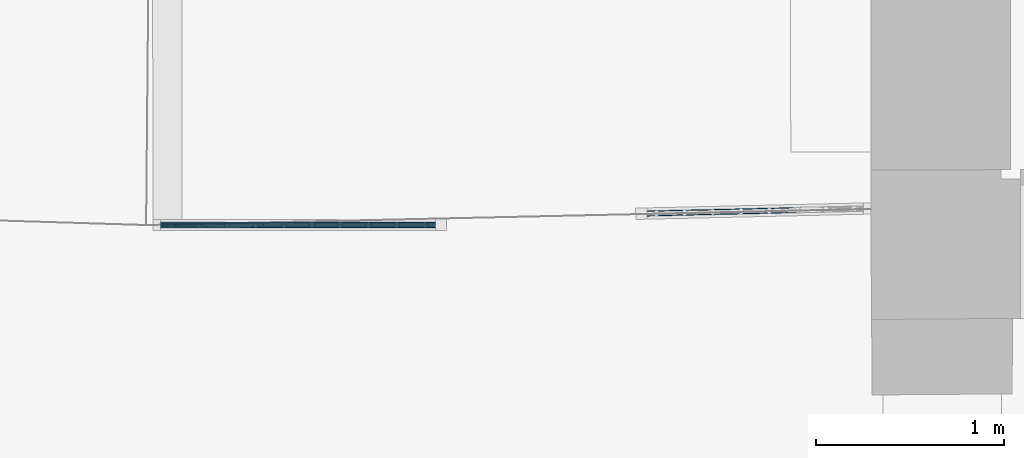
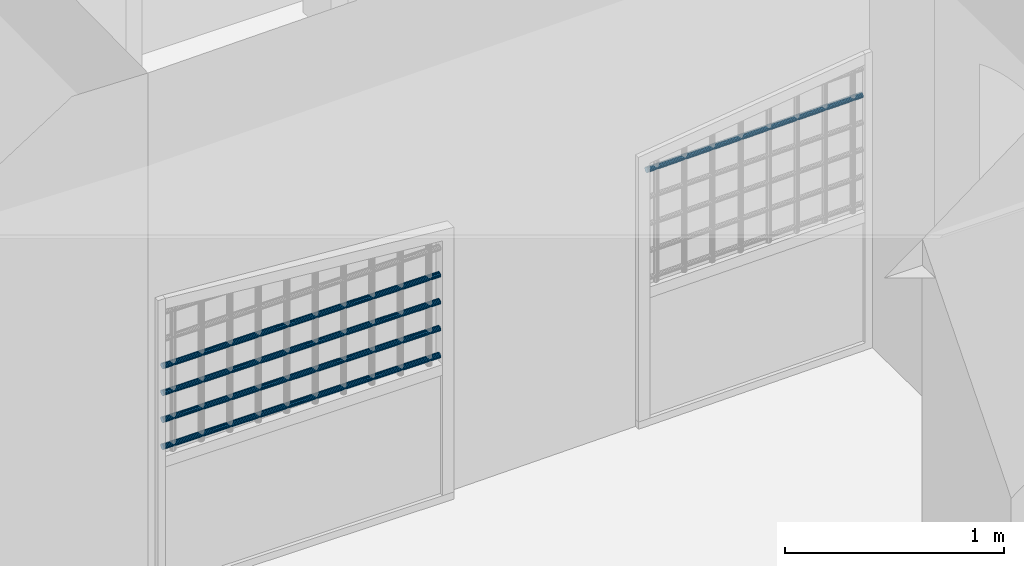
# One storey, part 33 of 133: 5 members, 2 elements without a shape of their own.
"""IFC2X3 building model written with IfcOpenShell, lengths in centimetres."""

from ifc_helpers import new_model, entity, si_unit, converted_unit, direction, frame, origin, origin_with_axes, place, context, subcontext, project, spatial, faceted_brep, material, type_object, element, aggregate, save


model = new_model("IFC2X3")

# Units and contexts
model_context = context("Model", 3, precision=0.0001, world=origin(), true_north=direction((0.225632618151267, 0.974212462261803, 0.0)))
body_context = subcontext(model_context, "Body", "Model", "MODEL_VIEW")
ifc_project = project(units=[si_unit("LENGTHUNIT", "METRE", prefix="CENTI"), si_unit("AREAUNIT", "SQUARE_METRE", prefix="CENTI"), si_unit("VOLUMEUNIT", "CUBIC_METRE", prefix="CENTI"), converted_unit("PLANEANGLEUNIT", "DEGREE", entity("IfcRatioMeasure", 0.0174532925), si_unit("PLANEANGLEUNIT", "RADIAN"), dimensions=[0, 0, 0, 0, 0, 0, 0])], contexts=[model_context])

# Site, building, storey
site_placement = place(None, origin_with_axes())
site = spatial("IfcSite", under=ifc_project, at=site_placement, Name="Default Site", CompositionType="ELEMENT")
building_placement = place(site_placement, origin_with_axes())
building = spatial("IfcBuilding", under=site, at=building_placement, Name="Default Building", CompositionType="ELEMENT")
storey_placement = place(building_placement, frame((0.0, 0.0, -291.400371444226), z_axis=(0.0, 0.0, 1.0), x_axis=(1.0, 0.0, 0.0)))
storey = spatial("IfcBuildingStorey", under=building, at=storey_placement, Name="Rez-de-Jardin", CompositionType="ELEMENT", Elevation=-291.400371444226)

# Assembly, member
building_element_proxy_type = type_object("IfcBuildingElementProxyType", Name="Type Object", PredefinedType="NOTDEFINED")
assembly_1_placement = place(storey_placement, frame((230.29031879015, 209.448968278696, 0.0), z_axis=(0.0, 0.0, 1.0), x_axis=(-0.999739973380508, -0.0228031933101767, 0.0)))
assembly_1 = element("IfcElementAssembly", 1, at=assembly_1_placement, inside=storey, type_object=building_element_proxy_type, Name="Panneau 76236", ObjectType="Precast panel", PredefinedType="USERDEFINED")
ifc_material = material(Name="Noyer 01")
member_1_placement = place(assembly_1_placement, frame((119.000005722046, -2.48696978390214, 139.087891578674), z_axis=(1.0, -6.99787450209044e-15, -4.04190569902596e-15), x_axis=(-8.08381139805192e-15, -0.866025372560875, -0.500000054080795)))
member_1 = element("IfcMember", 2, at=member_1_placement, material=ifc_material, Name="4294966847", context=body_context, shape_type="Brep", body=[
    faceted_brep([(-6.66133814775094e-14, -2.22044604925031e-14, 2.22044604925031e-14), (-0.520944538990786, -2.22044604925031e-14, 1.79950504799e-14), (-1.01047143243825, -0.178172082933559, 1.40391967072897e-14), (-1.40954075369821, -0.513033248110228, 1.08139992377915e-14), (-1.67001307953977, -0.964184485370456, 8.7085111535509e-15), (-1.76047079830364, -1.47720890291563, 7.97669189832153e-15), (-1.67001492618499, -1.99024800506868, 8.70671629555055e-15), (-1.40954271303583, -2.44139924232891, 1.08106382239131e-14), (-1.01047353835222, -2.77625157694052, 1.40346727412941e-14), (-0.520948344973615, -2.95442951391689, 1.79898946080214e-14), (-3.80598290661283e-06, -2.95442951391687, 2.21993046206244e-14), (0.489529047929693, -2.7762471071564, 2.61552065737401e-14), (0.888592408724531, -2.44139626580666, 2.9380355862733e-14), (1.14906473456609, -1.99024502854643, 3.14858439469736e-14), (1.23952841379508, -1.47721028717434, 3.22177113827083e-14), (1.1490665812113, -0.964181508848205, 3.14876388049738e-14), (0.888594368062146, -0.513030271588, 2.93837168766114e-14), (0.489525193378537, -0.178177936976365, 2.61596823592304e-14), (0.48952519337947, -0.178177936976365, -115.000005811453), (0.888594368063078, -0.513030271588, -115.000005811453), (1.14906658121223, -0.964181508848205, -115.000005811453), (1.23952841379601, -1.47721028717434, -115.000005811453), (1.14906473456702, -1.99024502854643, -115.000005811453), (0.888592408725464, -2.44139626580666, -115.000005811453), (0.489529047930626, -2.7762471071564, -115.000005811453), (-3.80598197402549e-06, -2.95442951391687, -115.000005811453), (-0.520948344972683, -2.95442951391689, -115.000005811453), (-1.01047353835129, -2.77625157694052, -115.000005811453), (-1.40954271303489, -2.44139924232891, -115.000005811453), (-1.67001492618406, -1.99024800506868, -115.000005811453), (-1.7604707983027, -1.47720890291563, -115.000005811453), (-1.67001307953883, -0.964184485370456, -115.000005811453), (-1.40954075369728, -0.513033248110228, -115.000005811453), (-1.01047143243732, -0.178172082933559, -115.000005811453), (-0.520944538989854, -2.22044604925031e-14, -115.000005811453), (8.65973959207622e-13, -2.22044604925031e-14, -115.000005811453), (0.489525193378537, -0.178177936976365, 2.22044604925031e-14), (0.888591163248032, -0.513034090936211, 2.22044345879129e-14), (0.888591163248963, -0.513034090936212, -115.000005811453), (0.489525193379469, -0.178177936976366, -115.000005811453), (0.888594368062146, -0.513030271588, 2.22044604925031e-14), (1.14906660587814, -0.964181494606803, 2.22044606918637e-14), (1.14906660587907, -0.964181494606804, -115.000005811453), (0.888594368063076, -0.513030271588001, -115.000005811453), (1.1490665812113, -0.964181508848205, 2.22044604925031e-14), (1.23952740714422, -1.477210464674, 2.22044523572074e-14), (1.23952740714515, -1.477210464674, -115.000005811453), (1.14906658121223, -0.964181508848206, -115.000005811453), (1.23952841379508, -1.47721028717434, 2.22044604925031e-14), (1.14906646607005, -1.99024533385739, 1.3992341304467e-20), (1.14906646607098, -1.99024533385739, -115.000005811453), (1.14906473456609, -1.99024502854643, 0.0), (0.88859240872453, -2.44139626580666, -9.71150174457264e-30), (0.88859240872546, -2.44139626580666, -115.000005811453), (0.888592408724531, -2.44139626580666, 0.0), (0.489530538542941, -2.77624888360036, 1.20434926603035e-20), (0.489530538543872, -2.77624888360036, -115.000005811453), (0.888592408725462, -2.44139626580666, -115.000005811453), (0.489529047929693, -2.7762471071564, 0.0), (-6.07714851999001e-06, -2.95442327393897, -1.83448670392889e-20), (-6.07714758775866e-06, -2.95442327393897, -115.000005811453), (0.489529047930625, -2.7762471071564, -115.000005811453), (-3.80598290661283e-06, -2.95442951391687, 0.0), (-0.520948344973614, -2.95442948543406, 4.14624859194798e-26), (-0.520948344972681, -2.95442948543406, -115.000005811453), (-0.520948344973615, -2.95442951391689, 0.0), (-1.01047524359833, -2.77625626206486, -1.37874062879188e-20), (-1.01047524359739, -2.77625626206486, -115.000005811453), (-1.01047353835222, -2.77625157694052, 0.0), (-1.4095395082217, -2.44139542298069, 2.5904590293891e-20), (-1.40953950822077, -2.44139542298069, -115.000005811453), (-1.01047353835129, -2.77625157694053, -115.000005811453), (-1.40954271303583, -2.44139924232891, 0.0), (-1.67001495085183, -1.99024801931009, -1.99360594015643e-22), (-1.6700149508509, -1.99024801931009, -115.000005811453), (-1.4095427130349, -2.44139924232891, -115.000005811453), (-1.67001492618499, -1.99024800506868, 0.0), (-1.76047733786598, -1.47721005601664, -5.28497774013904e-20), (-1.76047733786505, -1.47721005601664, -115.000005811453), (-1.67001492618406, -1.99024800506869, -115.000005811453), (-1.76047079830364, -1.47720890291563, 0.0), (-1.67001079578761, -0.964184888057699, 1.84550773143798e-20), (-1.67001079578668, -0.964184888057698, -115.000005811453), (-1.76047079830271, -1.47720890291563, -115.000005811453), (-1.67001307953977, -0.964184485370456, 0.0), (-1.40954075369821, -0.513033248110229, 1.09254394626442e-29), (-1.67001307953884, -0.964184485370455, -115.000005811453), (-1.40954075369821, -0.513033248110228, 0.0), (-1.01047030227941, -0.178173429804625, 2.22044696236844e-14), (-1.01047030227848, -0.178173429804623, -115.000005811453), (-1.40954075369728, -0.513033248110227, -115.000005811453), (-1.01047143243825, -0.178172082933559, 2.22044604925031e-14), (-0.520944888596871, 9.6053505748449e-07, 2.22044576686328e-14), (-0.520944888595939, 9.60535058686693e-07, -115.000005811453), (-1.01047143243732, -0.178172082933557, -115.000005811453), (-0.520944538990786, -2.22044604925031e-14, 2.22044604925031e-14), (-6.81706877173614e-14, -2.84828272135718e-08, 2.22044604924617e-14), (8.6441665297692e-13, -2.84828270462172e-08, -115.000005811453), (-0.520944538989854, -2.2037105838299e-14, -115.000005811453), (0.489526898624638, -0.178173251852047, 2.22044742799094e-14), (0.48952689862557, -0.178173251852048, -115.000005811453), (8.6564886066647e-13, -2.30976612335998e-14, -115.000005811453)], [[[0, 1, 2, 3, 4, 5, 6, 7, 8, 9, 10, 11, 12, 13, 14, 15, 16, 17]], [[18, 19, 20, 21, 22, 23, 24, 25, 26, 27, 28, 29, 30, 31, 32, 33, 34, 35]], [[36, 37, 38, 39]], [[40, 41, 42, 43]], [[44, 45, 46, 47]], [[48, 49, 50, 21]], [[51, 52, 53, 22]], [[54, 55, 56, 57]], [[58, 59, 60, 61]], [[62, 63, 64, 25]], [[65, 66, 67, 26]], [[68, 69, 70, 71]], [[72, 73, 74, 75]], [[76, 77, 78, 79]], [[80, 81, 82, 83]], [[84, 85, 32, 86]], [[87, 88, 89, 90]], [[91, 92, 93, 94]], [[95, 96, 97, 98]], [[0, 99, 100, 101]]]),
])
aggregate(assembly_1, [member_1])

# Assembly, members
assembly_2_placement = place(storey_placement, frame((-151.298940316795, 206.642558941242, 0.0), z_axis=(0.0, 0.0, 1.0), x_axis=(1.0, 0.0, 0.0)))
assembly_2 = element("IfcElementAssembly", 3, at=assembly_2_placement, inside=storey, type_object=building_element_proxy_type, Name="Panneau 76235", ObjectType="Precast panel", PredefinedType="USERDEFINED")
member_2_placement = place(assembly_2_placement, frame((150.0, -2.48696978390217, 124.097967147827), z_axis=(1.0, 0.0, 0.0), x_axis=(0.0, -0.866025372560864, -0.500000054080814)))
member_2 = element("IfcMember", 4, at=member_2_placement, material=ifc_material, Name="4294966771", context=body_context, shape_type="Brep", body=[
    faceted_brep([(0.0, 2.22044604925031e-14, 0.0), (-0.520944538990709, 2.22044604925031e-14, 0.0), (-1.01047143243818, -0.178172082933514, 0.0), (-1.40954075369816, -0.513033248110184, 0.0), (-1.67001307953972, -0.964184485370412, 0.0), (-1.7604767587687, -1.47721922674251, 0.0), (-1.67001492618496, -1.99024800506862, 0.0), (-1.40954271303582, -2.44139924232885, 0.0), (-1.01047353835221, -2.77625157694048, 0.0), (-0.520948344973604, -2.95442951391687, 0.0), (-3.8059828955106e-06, -2.95442951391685, 0.0), (0.489523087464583, -2.77625743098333, 0.0), (0.888592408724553, -2.44139626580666, 0.0), (1.14906473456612, -1.99024502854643, 0.0), (1.23952841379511, -1.47721028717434, 0.0), (1.14906658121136, -0.964181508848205, 0.0), (0.888594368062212, -0.513030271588, 0.0), (0.489525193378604, -0.178177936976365, 0.0), (0.489525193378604, -0.178177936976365, -146.000000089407), (0.888594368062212, -0.513030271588, -146.000000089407), (1.14906658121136, -0.964181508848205, -146.000000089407), (1.23952841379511, -1.47721028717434, -146.000000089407), (1.14906473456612, -1.99024502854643, -146.000000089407), (0.888592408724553, -2.44139626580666, -146.000000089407), (0.489523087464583, -2.77625743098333, -146.000000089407), (-3.8059828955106e-06, -2.95442951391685, -146.000000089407), (-0.520948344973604, -2.95442951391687, -146.000000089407), (-1.01047353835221, -2.77625157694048, -146.000000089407), (-1.40954271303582, -2.44139924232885, -146.000000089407), (-1.67001492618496, -1.99024800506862, -146.000000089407), (-1.7604767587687, -1.47721922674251, -146.000000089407), (-1.67001307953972, -0.964184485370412, -146.000000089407), (-1.40954075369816, -0.513033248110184, -146.000000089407), (-1.01047143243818, -0.178172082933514, -146.000000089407), (-0.520944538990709, 2.22044604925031e-14, -146.000000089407), (0.0, 2.22044604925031e-14, -146.000000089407), (0.888591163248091, -0.51303409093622, 0.0), (0.888591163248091, -0.51303409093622, -146.000000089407), (1.14906660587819, -0.964181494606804, 0.0), (1.14906660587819, -0.964181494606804, -146.000000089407), (1.23952740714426, -1.477210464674, 0.0), (1.23952740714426, -1.477210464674, -146.000000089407), (1.14906646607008, -1.99024533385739, 0.0), (1.14906646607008, -1.99024533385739, -146.000000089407), (0.88859240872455, -2.44139626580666, 0.0), (0.88859240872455, -2.44139626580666, -146.000000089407), (0.489521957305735, -2.77625608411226, 0.0), (0.489521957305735, -2.77625608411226, -146.000000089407), (-3.45637680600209e-06, -2.95443047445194, 0.0), (-3.45637680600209e-06, -2.95443047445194, -146.000000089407), (-0.520948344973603, -2.95442948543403, 0.0), (-0.520948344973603, -2.95442948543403, -146.000000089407), (-1.01047524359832, -2.77625626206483, 0.0), (-1.01047524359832, -2.77625626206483, -146.000000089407), (-1.40953950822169, -2.44139542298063, 0.0), (-1.40953950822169, -2.44139542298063, -146.000000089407), (-1.6700149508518, -1.99024801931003, 0.0), (-1.6700149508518, -1.99024801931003, -146.000000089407), (-1.76047575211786, -1.47721904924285, 0.0), (-1.76047575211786, -1.47721904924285, -146.000000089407), (-1.67001481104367, -0.964184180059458, 0.0), (-1.67001481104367, -0.964184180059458, -146.000000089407), (-1.40954075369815, -0.513033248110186, 0.0), (-1.40954075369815, -0.513033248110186, -146.000000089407), (-1.01047030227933, -0.178173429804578, 0.0), (-1.01047030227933, -0.178173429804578, -146.000000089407), (-0.52094488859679, 9.60535091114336e-07, 0.0), (-0.52094488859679, 9.60535091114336e-07, -146.000000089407), (-1.55730749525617e-15, -2.84827942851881e-08, 0.0), (-1.55730749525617e-15, -2.84827942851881e-08, -146.000000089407), (0.489526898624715, -0.178173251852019, 0.0), (0.489526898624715, -0.178173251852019, -146.000000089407)], [[[0, 1, 2, 3, 4, 5, 6, 7, 8, 9, 10, 11, 12, 13, 14, 15, 16, 17]], [[18, 19, 20, 21, 22, 23, 24, 25, 26, 27, 28, 29, 30, 31, 32, 33, 34, 35]], [[17, 36, 37, 18]], [[16, 38, 39, 19]], [[15, 40, 41, 20]], [[14, 42, 43, 21]], [[13, 44, 45, 22]], [[12, 46, 47, 23]], [[11, 48, 49, 24]], [[10, 50, 51, 25]], [[9, 52, 53, 26]], [[8, 54, 55, 27]], [[7, 56, 57, 28]], [[6, 58, 59, 29]], [[5, 60, 61, 30]], [[4, 62, 63, 31]], [[3, 64, 65, 32]], [[2, 66, 67, 33]], [[1, 68, 69, 34]], [[0, 70, 71, 35]]]),
])
member_3_placement = place(assembly_2_placement, frame((150.0, -2.48696978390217, 109.097969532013), z_axis=(1.0, 0.0, 0.0), x_axis=(0.0, -0.866025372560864, -0.500000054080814)))
member_3 = element("IfcMember", 5, at=member_3_placement, material=ifc_material, Name="4294966770", context=body_context, shape_type="Brep", body=[
    faceted_brep([(0.0, 0.0, 0.0), (-0.520944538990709, -1.11022302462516e-14, 0.0), (-1.01047143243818, -0.178172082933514, 0.0), (-1.40954075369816, -0.513033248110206, 0.0), (-1.67001307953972, -0.964184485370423, 0.0), (-1.76047079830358, -1.47720890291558, 0.0), (-1.67001492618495, -1.99024800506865, 0.0), (-1.40954271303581, -2.44139924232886, 0.0), (-1.01047353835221, -2.7762515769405, 0.0), (-0.520948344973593, -2.95442951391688, 0.0), (-3.80598288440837e-06, -2.95442951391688, 0.0), (0.489529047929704, -2.77624710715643, 0.0), (0.888592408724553, -2.44139626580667, 0.0), (1.14906473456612, -1.99024502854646, 0.0), (1.23952841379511, -1.47721028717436, 0.0), (1.14906658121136, -0.964181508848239, 0.0), (0.888594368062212, -0.513030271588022, 0.0), (0.489525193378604, -0.178177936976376, 0.0), (0.489525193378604, -0.178177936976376, -146.000000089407), (0.888594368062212, -0.513030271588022, -146.000000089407), (1.14906658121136, -0.964181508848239, -146.000000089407), (1.23952841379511, -1.47721028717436, -146.000000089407), (1.14906473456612, -1.99024502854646, -146.000000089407), (0.888592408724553, -2.44139626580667, -146.000000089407), (0.489529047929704, -2.77624710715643, -146.000000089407), (-3.80598288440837e-06, -2.95442951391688, -146.000000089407), (-0.520948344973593, -2.95442951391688, -146.000000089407), (-1.01047353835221, -2.7762515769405, -146.000000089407), (-1.40954271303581, -2.44139924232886, -146.000000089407), (-1.67001492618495, -1.99024800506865, -146.000000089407), (-1.76047079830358, -1.47720890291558, -146.000000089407), (-1.67001307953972, -0.964184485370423, -146.000000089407), (-1.40954075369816, -0.513033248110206, -146.000000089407), (-1.01047143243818, -0.178172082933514, -146.000000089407), (-0.520944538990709, -1.11022302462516e-14, -146.000000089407), (0.0, 0.0, -146.000000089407), (0.888591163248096, -0.513034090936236, 0.0), (0.888591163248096, -0.513034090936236, -146.000000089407), (1.1490666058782, -0.964181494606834, 0.0), (1.1490666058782, -0.964181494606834, -146.000000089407), (1.23952740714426, -1.47721046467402, 0.0), (1.23952740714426, -1.47721046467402, -146.000000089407), (1.14906646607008, -1.99024533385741, 0.0), (1.14906646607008, -1.99024533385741, -146.000000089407), (0.888592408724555, -2.44139626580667, 0.0), (0.888592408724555, -2.44139626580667, -146.000000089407), (0.489530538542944, -2.77624888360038, 0.0), (0.489530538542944, -2.77624888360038, -146.000000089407), (-6.07714849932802e-06, -2.95442327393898, 0.0), (-6.07714849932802e-06, -2.95442327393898, -146.000000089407), (-0.520948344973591, -2.95442948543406, 0.0), (-0.520948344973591, -2.95442948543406, -146.000000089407), (-1.01047524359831, -2.77625626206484, 0.0), (-1.01047524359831, -2.77625626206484, -146.000000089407), (-1.40953950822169, -2.44139542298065, 0.0), (-1.40953950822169, -2.44139542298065, -146.000000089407), (-1.67001495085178, -1.99024801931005, 0.0), (-1.67001495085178, -1.99024801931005, -146.000000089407), (-1.76047733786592, -1.4772100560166, 0.0), (-1.76047733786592, -1.4772100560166, -146.000000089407), (-1.67001079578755, -0.964184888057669, 0.0), (-1.67001079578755, -0.964184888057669, -146.000000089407), (-1.40954075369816, -0.513033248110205, 0.0), (-1.40954075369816, -0.513033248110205, -146.000000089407), (-1.01047030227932, -0.178173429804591, 0.0), (-1.01047030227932, -0.178173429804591, -146.000000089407), (-0.5209448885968, 9.60535087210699e-07, 0.0), (-0.5209448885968, 9.60535087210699e-07, -146.000000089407), (-1.55730810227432e-15, -2.84828275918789e-08, 0.0), (-1.55730810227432e-15, -2.84828275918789e-08, -146.000000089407), (0.489526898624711, -0.17817325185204, 0.0), (0.489526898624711, -0.17817325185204, -146.000000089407)], [[[0, 1, 2, 3, 4, 5, 6, 7, 8, 9, 10, 11, 12, 13, 14, 15, 16, 17]], [[18, 19, 20, 21, 22, 23, 24, 25, 26, 27, 28, 29, 30, 31, 32, 33, 34, 35]], [[17, 36, 37, 18]], [[16, 38, 39, 19]], [[15, 40, 41, 20]], [[14, 42, 43, 21]], [[13, 44, 45, 22]], [[12, 46, 47, 23]], [[11, 48, 49, 24]], [[10, 50, 51, 25]], [[9, 52, 53, 26]], [[8, 54, 55, 27]], [[7, 56, 57, 28]], [[6, 58, 59, 29]], [[5, 60, 61, 30]], [[4, 62, 63, 31]], [[3, 64, 65, 32]], [[2, 66, 67, 33]], [[1, 68, 69, 34]], [[0, 70, 71, 35]]]),
])
member_4_placement = place(assembly_2_placement, frame((150.0, -2.48696978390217, 94.0979719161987), z_axis=(1.0, 0.0, 0.0), x_axis=(0.0, -0.866025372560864, -0.500000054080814)))
member_4 = element("IfcMember", 6, at=member_4_placement, material=ifc_material, Name="4294966769", context=body_context, shape_type="Brep", body=[
    faceted_brep([(-5.55111512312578e-15, 2.22044604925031e-14, 0.0), (-0.520944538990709, 1.11022302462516e-14, 0.0), (-1.01047143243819, -0.178172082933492, 0.0), (-1.4095377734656, -0.513028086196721, 0.0), (-1.67001009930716, -0.964179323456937, 0.0), (-1.7604707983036, -1.47720890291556, 0.0), (-1.67001194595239, -1.99024284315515, 0.0), (-1.40953973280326, -2.44139408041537, 0.0), (-1.01047353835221, -2.77625157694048, 0.0), (-0.520945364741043, -2.95442435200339, 0.0), (-8.25750340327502e-07, -2.95442435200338, 0.0), (0.489529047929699, -2.7762471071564, 0.0), (0.888595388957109, -2.44139110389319, 0.0), (1.14906771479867, -1.99023986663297, 0.0), (1.2395284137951, -1.47721028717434, 0.0), (1.14906658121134, -0.964181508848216, 0.0), (0.888594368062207, -0.513030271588, 0.0), (0.489528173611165, -0.17817277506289, 0.0), (0.489528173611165, -0.17817277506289, -146.000000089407), (0.888594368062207, -0.513030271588, -146.000000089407), (1.14906658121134, -0.964181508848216, -146.000000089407), (1.2395284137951, -1.47721028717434, -146.000000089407), (1.14906771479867, -1.99023986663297, -146.000000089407), (0.888595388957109, -2.44139110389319, -146.000000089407), (0.489529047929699, -2.7762471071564, -146.000000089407), (-8.25750340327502e-07, -2.95442435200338, -146.000000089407), (-0.520945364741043, -2.95442435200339, -146.000000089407), (-1.01047353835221, -2.77625157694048, -146.000000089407), (-1.40953973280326, -2.44139408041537, -146.000000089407), (-1.67001194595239, -1.99024284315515, -146.000000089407), (-1.7604707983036, -1.47720890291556, -146.000000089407), (-1.67001009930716, -0.964179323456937, -146.000000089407), (-1.4095377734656, -0.513028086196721, -146.000000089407), (-1.01047143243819, -0.178172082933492, -146.000000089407), (-0.520944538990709, 1.11022302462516e-14, -146.000000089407), (-5.55111512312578e-15, 2.22044604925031e-14, -146.000000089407), (0.888594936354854, -0.513029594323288, 0.0), (0.888594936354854, -0.513029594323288, -146.000000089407), (1.14906660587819, -0.96418149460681, 0.0), (1.14906660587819, -0.96418149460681, -146.000000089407), (1.23952740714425, -1.477210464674, 0.0), (1.23952740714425, -1.477210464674, -146.000000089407), (1.14906743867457, -1.99023981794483, 0.0), (1.14906743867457, -1.99023981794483, -146.000000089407), (0.888595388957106, -2.44139110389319, 0.0), (0.888595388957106, -2.44139110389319, -146.000000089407), (0.489529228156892, -2.77624732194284, 0.0), (0.489529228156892, -2.77624732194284, -146.000000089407), (-1.78653010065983e-06, -2.95442171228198, 0.0), (-1.78653010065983e-06, -2.95442171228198, -146.000000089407), (-0.520945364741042, -2.95442432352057, 0.0), (-0.520945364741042, -2.95442432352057, -146.000000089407), (-1.01047323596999, -2.7762507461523, 0.0), (-1.01047323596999, -2.7762507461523, -146.000000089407), (-1.4095403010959, -2.44139475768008, 0.0), (-1.4095403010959, -2.44139475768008, -146.000000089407), (-1.67001197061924, -1.99024285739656, 0.0), (-1.67001197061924, -1.99024285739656, -146.000000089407), (-1.76047356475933, -1.47720939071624, 0.0), (-1.76047356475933, -1.47720939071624, -146.000000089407), (-1.67000982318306, -0.964179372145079, 0.0), (-1.67000982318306, -0.964179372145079, -146.000000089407), (-1.40953777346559, -0.513028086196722, 0.0), (-1.40953777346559, -0.513028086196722, -146.000000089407), (-1.01047161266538, -0.178171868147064, 0.0), (-1.01047161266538, -0.178171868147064, -146.000000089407), (-0.520944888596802, 9.60535114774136e-07, 0.0), (-0.520944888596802, 9.60535114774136e-07, -146.000000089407), (-7.10842322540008e-15, -2.84828053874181e-08, 0.0), (-7.10842322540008e-15, -2.84828053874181e-08, -146.000000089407), (0.489527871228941, -0.178173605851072, 0.0), (0.489527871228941, -0.178173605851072, -146.000000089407)], [[[0, 1, 2, 3, 4, 5, 6, 7, 8, 9, 10, 11, 12, 13, 14, 15, 16, 17]], [[18, 19, 20, 21, 22, 23, 24, 25, 26, 27, 28, 29, 30, 31, 32, 33, 34, 35]], [[17, 36, 37, 18]], [[16, 38, 39, 19]], [[15, 40, 41, 20]], [[14, 42, 43, 21]], [[13, 44, 45, 22]], [[12, 46, 47, 23]], [[11, 48, 49, 24]], [[10, 50, 51, 25]], [[9, 52, 53, 26]], [[8, 54, 55, 27]], [[7, 56, 57, 28]], [[6, 58, 59, 29]], [[5, 60, 61, 30]], [[4, 62, 63, 31]], [[3, 64, 65, 32]], [[2, 66, 67, 33]], [[1, 68, 69, 34]], [[0, 70, 71, 35]]]),
])
member_5_placement = place(assembly_2_placement, frame((150.0, -2.48696978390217, 79.09796833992), z_axis=(1.0, 0.0, 0.0), x_axis=(0.0, -0.866025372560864, -0.500000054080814)))
member_5 = element("IfcMember", 7, at=member_5_placement, material=ifc_material, Name="4294966768", context=body_context, shape_type="Brep", body=[
    faceted_brep([(5.55111512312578e-15, 4.44089209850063e-14, 0.0), (-0.520944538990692, 3.33066907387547e-14, 0.0), (-1.01047441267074, -0.178177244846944, 0.0), (-1.40954075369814, -0.513033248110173, 0.0), (-1.67001307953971, -0.96418448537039, 0.0), (-1.76047377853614, -1.47721406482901, 0.0), (-1.67001194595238, -1.99024284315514, 0.0), (-1.40953973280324, -2.44139408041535, 0.0), (-1.0104735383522, -2.77625157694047, 0.0), (-0.520945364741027, -2.95442435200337, 0.0), (-8.25750323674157e-07, -2.95442435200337, 0.0), (0.489526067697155, -2.77625226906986, 0.0), (0.888592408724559, -2.44139626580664, 0.0), (1.14906473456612, -1.99024502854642, 0.0), (1.23952543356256, -1.47721544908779, 0.0), (1.14906658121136, -0.964181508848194, 0.0), (0.888594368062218, -0.513030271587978, 0.0), (0.489525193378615, -0.178177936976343, 0.0), (0.489525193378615, -0.178177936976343, -146.000000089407), (0.888594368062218, -0.513030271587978, -146.000000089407), (1.14906658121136, -0.964181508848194, -146.000000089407), (1.23952543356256, -1.47721544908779, -146.000000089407), (1.14906473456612, -1.99024502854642, -146.000000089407), (0.888592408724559, -2.44139626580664, -146.000000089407), (0.489526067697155, -2.77625226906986, -146.000000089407), (-8.25750323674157e-07, -2.95442435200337, -146.000000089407), (-0.520945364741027, -2.95442435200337, -146.000000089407), (-1.0104735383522, -2.77625157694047, -146.000000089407), (-1.40953973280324, -2.44139408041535, -146.000000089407), (-1.67001194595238, -1.99024284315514, -146.000000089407), (-1.76047377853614, -1.47721406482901, -146.000000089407), (-1.67001307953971, -0.96418448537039, -146.000000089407), (-1.40954075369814, -0.513033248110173, -146.000000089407), (-1.01047441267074, -0.178177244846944, -146.000000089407), (-0.520944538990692, 3.33066907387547e-14, -146.000000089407), (5.55111512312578e-15, 4.44089209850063e-14, -146.000000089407), (0.888591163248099, -0.513034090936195, 0.0), (0.888591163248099, -0.513034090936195, -146.000000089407), (1.1490666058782, -0.96418149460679, 0.0), (1.1490666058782, -0.96418149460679, -146.000000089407), (1.2395282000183, -1.47721496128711, 0.0), (1.2395282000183, -1.47721496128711, -146.000000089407), (1.14906445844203, -1.99024497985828, 0.0), (1.14906445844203, -1.99024497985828, -146.000000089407), (0.888592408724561, -2.44139626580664, 0.0), (0.888592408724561, -2.44139626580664, -146.000000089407), (0.489526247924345, -2.77625248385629, 0.0), (0.489526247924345, -2.77625248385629, -146.000000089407), (-4.76144234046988e-07, -2.95442531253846, 0.0), (-4.76144234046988e-07, -2.95442531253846, -146.000000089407), (-0.520945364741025, -2.95442432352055, 0.0), (-0.520945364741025, -2.95442432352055, -146.000000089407), (-1.01047323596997, -2.77625074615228, 0.0), (-1.01047323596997, -2.77625074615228, -146.000000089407), (-1.40954030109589, -2.44139475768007, 0.0), (-1.40954030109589, -2.44139475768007, -146.000000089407), (-1.67001197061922, -1.99024285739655, 0.0), (-1.67001197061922, -1.99024285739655, -146.000000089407), (-1.76047277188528, -1.47721388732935, 0.0), (-1.76047277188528, -1.47721388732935, -146.000000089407), (-1.67001280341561, -0.964184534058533, 0.0), (-1.67001280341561, -0.964184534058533, -146.000000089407), (-1.40954075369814, -0.513033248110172, 0.0), (-1.40954075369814, -0.513033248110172, -146.000000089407), (-1.01047459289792, -0.178177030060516, 0.0), (-1.01047459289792, -0.178177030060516, -146.000000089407), (-0.520943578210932, -2.63972136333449e-06, 0.0), (-0.520943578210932, -2.63972136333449e-06, -146.000000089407), (3.9938070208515e-15, -2.84827831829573e-08, 0.0), (3.9938070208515e-15, -2.84827831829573e-08, -146.000000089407), (0.489526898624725, -0.178173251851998, 0.0), (0.489526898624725, -0.178173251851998, -146.000000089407)], [[[0, 1, 2, 3, 4, 5, 6, 7, 8, 9, 10, 11, 12, 13, 14, 15, 16, 17]], [[18, 19, 20, 21, 22, 23, 24, 25, 26, 27, 28, 29, 30, 31, 32, 33, 34, 35]], [[17, 36, 37, 18]], [[16, 38, 39, 19]], [[15, 40, 41, 20]], [[14, 42, 43, 21]], [[13, 44, 45, 22]], [[12, 46, 47, 23]], [[11, 48, 49, 24]], [[10, 50, 51, 25]], [[9, 52, 53, 26]], [[8, 54, 55, 27]], [[7, 56, 57, 28]], [[6, 58, 59, 29]], [[5, 60, 61, 30]], [[4, 62, 63, 31]], [[3, 64, 65, 32]], [[2, 66, 67, 33]], [[1, 68, 69, 34]], [[0, 70, 71, 35]]]),
])
aggregate(assembly_2, [member_2, member_3, member_4, member_5])

save(model, "model.ifc")
